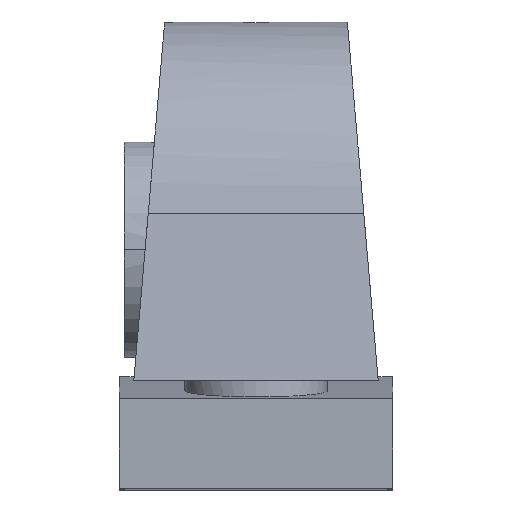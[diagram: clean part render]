
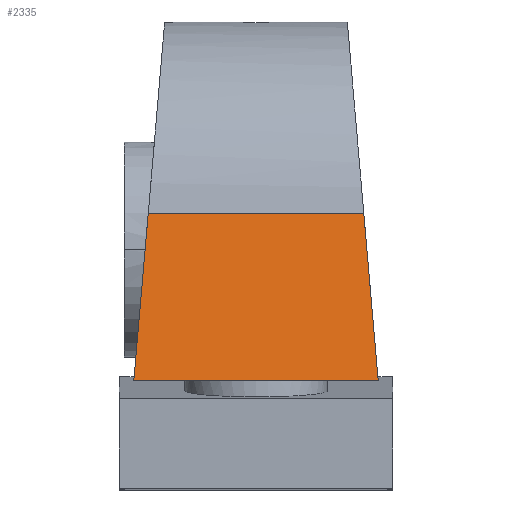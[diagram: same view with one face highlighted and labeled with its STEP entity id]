
A CAD part, top view. The second image highlights one B-rep face of the part: STEP entity #2335.
In plain terms, the highlighted planar face has unit normal (0, 0.159, 0.987).
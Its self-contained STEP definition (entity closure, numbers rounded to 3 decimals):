
#1550 = CARTESIAN_POINT ( 'NONE',  ( -17.001, -18.3, 35.047 ) ) ;
#1552 = CARTESIAN_POINT ( 'NONE',  ( 14.994, 5.029, 31.298 ) ) ;
#1557 = CARTESIAN_POINT ( 'NONE',  ( 0., -18.3, 35.047 ) ) ;
#1650 = DIRECTION ( 'NONE',  ( -1., 0., 0. ) ) ;
#1651 = VECTOR ( 'NONE', #1650, 1000. ) ;
#1652 = CARTESIAN_POINT ( 'NONE',  ( 19., -18.3, 35.047 ) ) ;
#1653 = LINE ( 'NONE', #1652, #1651 ) ;
#1748 = PLANE ( 'NONE',  #1800 ) ;
#1772 = FACE_OUTER_BOUND ( 'NONE', #2334, .T. ) ;
#1799 = LINE ( 'NONE', #1829, #1828 ) ;
#1800 = AXIS2_PLACEMENT_3D ( 'NONE', #1834, #1832, #1831 ) ;
#1805 = CARTESIAN_POINT ( 'NONE',  ( 17.001, -18.3, 35.047 ) ) ;
#1822 = DIRECTION ( 'NONE',  ( 1., 0., 0. ) ) ;
#1823 = VECTOR ( 'NONE', #1822, 1000. ) ;
#1824 = CARTESIAN_POINT ( 'NONE',  ( 0., 5.029, 31.298 ) ) ;
#1825 = LINE ( 'NONE', #1824, #1823 ) ;
#1827 = DIRECTION ( 'NONE',  ( -1., 0., 0. ) ) ;
#1828 = VECTOR ( 'NONE', #1827, 1000. ) ;
#1829 = CARTESIAN_POINT ( 'NONE',  ( 19., -18.3, 35.047 ) ) ;
#1831 = DIRECTION ( 'NONE',  ( 0., 0.987, -0.159 ) ) ;
#1832 = DIRECTION ( 'NONE',  ( 0., 0.159, 0.987 ) ) ;
#1834 = CARTESIAN_POINT ( 'NONE',  ( 17.205, -18.3, 35.047 ) ) ;
#1981 = CARTESIAN_POINT ( 'NONE',  ( 17.001, -18.3, 35.047 ) ) ;
#1982 = CARTESIAN_POINT ( 'NONE',  ( 16.332, -10.524, 33.798 ) ) ;
#1983 = CARTESIAN_POINT ( 'NONE',  ( 15.663, -2.747, 32.548 ) ) ;
#1984 = CARTESIAN_POINT ( 'NONE',  ( 14.994, 5.029, 31.298 ) ) ;
#1987 = B_SPLINE_CURVE_WITH_KNOTS ( 'NONE', 3,
 ( #1984, #1983, #1982, #1981 ),
 .UNSPECIFIED., .F., .F.,
 ( 4, 4 ),
 ( 0., 1. ),
 .UNSPECIFIED. ) ;
#2015 = CARTESIAN_POINT ( 'NONE',  ( -14.994, 5.029, 31.298 ) ) ;
#2016 = CARTESIAN_POINT ( 'NONE',  ( -15.663, -2.747, 32.548 ) ) ;
#2017 = CARTESIAN_POINT ( 'NONE',  ( -16.332, -10.524, 33.798 ) ) ;
#2018 = CARTESIAN_POINT ( 'NONE',  ( -17.001, -18.3, 35.047 ) ) ;
#2020 = CARTESIAN_POINT ( 'NONE',  ( -14.994, 5.029, 31.298 ) ) ;
#2021 = B_SPLINE_CURVE_WITH_KNOTS ( 'NONE', 3,
 ( #2018, #2017, #2016, #2015 ),
 .UNSPECIFIED., .F., .F.,
 ( 4, 4 ),
 ( 0., 1. ),
 .UNSPECIFIED. ) ;
#2262 = VERTEX_POINT ( 'NONE', #1557 ) ;
#2263 = VERTEX_POINT ( 'NONE', #1552 ) ;
#2266 = EDGE_CURVE ( 'NONE', #2262, #2269, #1653, .T. ) ;
#2267 = ORIENTED_EDGE ( 'NONE', *, *, #2343, .F. ) ;
#2269 = VERTEX_POINT ( 'NONE', #1550 ) ;
#2334 = EDGE_LOOP ( 'NONE', ( #2267, #2336, #2339, #2337, #2425 ) ) ;
#2335 = ADVANCED_FACE ( 'NONE', ( #1772 ), #1748, .T. ) ;
#2336 = ORIENTED_EDGE ( 'NONE', *, *, #2429, .F. ) ;
#2337 = ORIENTED_EDGE ( 'NONE', *, *, #2340, .F. ) ;
#2338 = VERTEX_POINT ( 'NONE', #1805 ) ;
#2339 = ORIENTED_EDGE ( 'NONE', *, *, #2266, .F. ) ;
#2340 = EDGE_CURVE ( 'NONE', #2338, #2262, #1799, .T. ) ;
#2343 = EDGE_CURVE ( 'NONE', #2433, #2263, #1825, .T. ) ;
#2425 = ORIENTED_EDGE ( 'NONE', *, *, #2428, .F. ) ;
#2428 = EDGE_CURVE ( 'NONE', #2263, #2338, #1987, .T. ) ;
#2429 = EDGE_CURVE ( 'NONE', #2269, #2433, #2021, .T. ) ;
#2433 = VERTEX_POINT ( 'NONE', #2020 ) ;
